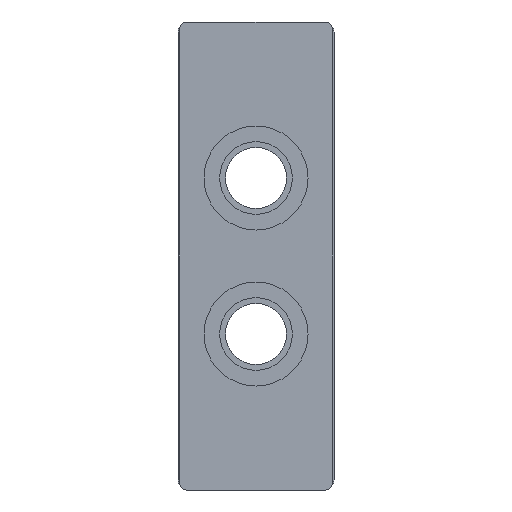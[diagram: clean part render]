
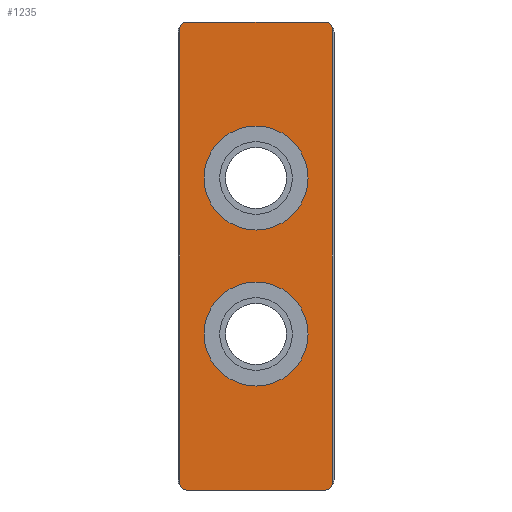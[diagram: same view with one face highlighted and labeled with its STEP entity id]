
A CAD part, front view. The second image highlights one B-rep face of the part: STEP entity #1235.
In plain terms, the highlighted planar face has unit normal (0, -1, 0).
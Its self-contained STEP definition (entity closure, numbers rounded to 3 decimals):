
#992=CARTESIAN_POINT('',(0.,0.,-22.5));
#993=DIRECTION('',(0.,1.,0.));
#994=DIRECTION('',(1.,0.,0.));
#995=AXIS2_PLACEMENT_3D('',#992,#993,#994);
#997=CARTESIAN_POINT('',(0.,0.,-22.5));
#998=DIRECTION('',(0.,1.,0.));
#999=DIRECTION('',(-1.,0.,0.));
#1000=AXIS2_PLACEMENT_3D('',#997,#998,#999);
#1002=CARTESIAN_POINT('',(0.,0.,22.5));
#1003=DIRECTION('',(0.,1.,0.));
#1004=DIRECTION('',(1.,0.,0.));
#1005=AXIS2_PLACEMENT_3D('',#1002,#1003,#1004);
#1007=CARTESIAN_POINT('',(0.,0.,22.5));
#1008=DIRECTION('',(0.,1.,0.));
#1009=DIRECTION('',(-1.,0.,0.));
#1010=AXIS2_PLACEMENT_3D('',#1007,#1008,#1009);
#1012=DIRECTION('',(0.,0.,-1.));
#1013=VECTOR('',#1012,131.);
#1014=CARTESIAN_POINT('',(22.,0.,65.5));
#1015=LINE('',#1014,#1013);
#1016=DIRECTION('',(-1.,0.,0.));
#1017=VECTOR('',#1016,40.);
#1018=CARTESIAN_POINT('',(20.,0.,-67.5));
#1019=LINE('',#1018,#1017);
#1020=DIRECTION('',(0.,0.,1.));
#1021=VECTOR('',#1020,131.);
#1022=CARTESIAN_POINT('',(-22.,0.,-65.5));
#1023=LINE('',#1022,#1021);
#1024=DIRECTION('',(1.,0.,0.));
#1025=VECTOR('',#1024,40.);
#1026=CARTESIAN_POINT('',(-20.,0.,67.5));
#1027=LINE('',#1026,#1025);
#1093=CARTESIAN_POINT('',(20.,0.,65.5));
#1094=DIRECTION('',(0.,-1.,0.));
#1095=DIRECTION('',(1.,0.,0.));
#1096=AXIS2_PLACEMENT_3D('',#1093,#1094,#1095);
#1111=CARTESIAN_POINT('',(-20.,0.,65.5));
#1112=DIRECTION('',(0.,-1.,0.));
#1113=DIRECTION('',(0.,0.,1.));
#1114=AXIS2_PLACEMENT_3D('',#1111,#1112,#1113);
#1129=CARTESIAN_POINT('',(-20.,0.,-65.5));
#1130=DIRECTION('',(0.,-1.,0.));
#1131=DIRECTION('',(-1.,0.,0.));
#1132=AXIS2_PLACEMENT_3D('',#1129,#1130,#1131);
#1147=CARTESIAN_POINT('',(20.,0.,-65.5));
#1148=DIRECTION('',(0.,-1.,0.));
#1149=DIRECTION('',(0.,0.,-1.));
#1150=AXIS2_PLACEMENT_3D('',#1147,#1148,#1149);
#1153=CARTESIAN_POINT('',(20.,0.,67.5));
#1155=VERTEX_POINT('',#1153);
#1158=CARTESIAN_POINT('',(22.,0.,65.5));
#1159=VERTEX_POINT('',#1158);
#1161=CARTESIAN_POINT('',(-22.,0.,65.5));
#1163=VERTEX_POINT('',#1161);
#1166=CARTESIAN_POINT('',(-20.,0.,67.5));
#1167=VERTEX_POINT('',#1166);
#1169=CARTESIAN_POINT('',(-20.,0.,-67.5));
#1171=VERTEX_POINT('',#1169);
#1174=CARTESIAN_POINT('',(-22.,0.,-65.5));
#1175=VERTEX_POINT('',#1174);
#1177=CARTESIAN_POINT('',(22.,0.,-65.5));
#1179=VERTEX_POINT('',#1177);
#1182=CARTESIAN_POINT('',(20.,0.,-67.5));
#1183=VERTEX_POINT('',#1182);
#1184=CARTESIAN_POINT('',(15.,0.,-22.5));
#1185=CARTESIAN_POINT('',(-15.,0.,-22.5));
#1186=VERTEX_POINT('',#1184);
#1187=VERTEX_POINT('',#1185);
#1188=CARTESIAN_POINT('',(15.,0.,22.5));
#1189=CARTESIAN_POINT('',(-15.,0.,22.5));
#1190=VERTEX_POINT('',#1188);
#1191=VERTEX_POINT('',#1189);
#1200=CARTESIAN_POINT('',(0.,0.,0.));
#1201=DIRECTION('',(0.,1.,0.));
#1202=DIRECTION('',(1.,0.,0.));
#1203=AXIS2_PLACEMENT_3D('',#1200,#1201,#1202);
#1204=PLANE('',#1203);
#1206=ORIENTED_EDGE('',*,*,#1205,.F.);
#1208=ORIENTED_EDGE('',*,*,#1207,.T.);
#1210=ORIENTED_EDGE('',*,*,#1209,.F.);
#1212=ORIENTED_EDGE('',*,*,#1211,.T.);
#1214=ORIENTED_EDGE('',*,*,#1213,.F.);
#1216=ORIENTED_EDGE('',*,*,#1215,.T.);
#1218=ORIENTED_EDGE('',*,*,#1217,.F.);
#1220=ORIENTED_EDGE('',*,*,#1219,.T.);
#1221=EDGE_LOOP('',(#1206,#1208,#1210,#1212,#1214,#1216,#1218,#1220));
#1222=FACE_OUTER_BOUND('',#1221,.F.);
#1224=ORIENTED_EDGE('',*,*,#1223,.F.);
#1226=ORIENTED_EDGE('',*,*,#1225,.F.);
#1227=EDGE_LOOP('',(#1224,#1226));
#1228=FACE_BOUND('',#1227,.F.);
#1230=ORIENTED_EDGE('',*,*,#1229,.F.);
#1232=ORIENTED_EDGE('',*,*,#1231,.F.);
#1233=EDGE_LOOP('',(#1230,#1232));
#1234=FACE_BOUND('',#1233,.F.);
#1235=ADVANCED_FACE('',(#1222,#1228,#1234),#1204,.F.);
#996=CIRCLE('',#995,15.);
#1001=CIRCLE('',#1000,15.);
#1006=CIRCLE('',#1005,15.);
#1011=CIRCLE('',#1010,15.);
#1097=CIRCLE('',#1096,2.);
#1115=CIRCLE('',#1114,2.);
#1133=CIRCLE('',#1132,2.);
#1151=CIRCLE('',#1150,2.);
#1205=EDGE_CURVE('',#1159,#1155,#1097,.T.);
#1207=EDGE_CURVE('',#1159,#1179,#1015,.T.);
#1209=EDGE_CURVE('',#1183,#1179,#1151,.T.);
#1211=EDGE_CURVE('',#1183,#1171,#1019,.T.);
#1213=EDGE_CURVE('',#1175,#1171,#1133,.T.);
#1215=EDGE_CURVE('',#1175,#1163,#1023,.T.);
#1217=EDGE_CURVE('',#1167,#1163,#1115,.T.);
#1219=EDGE_CURVE('',#1167,#1155,#1027,.T.);
#1223=EDGE_CURVE('',#1186,#1187,#996,.T.);
#1225=EDGE_CURVE('',#1187,#1186,#1001,.T.);
#1229=EDGE_CURVE('',#1190,#1191,#1006,.T.);
#1231=EDGE_CURVE('',#1191,#1190,#1011,.T.);
